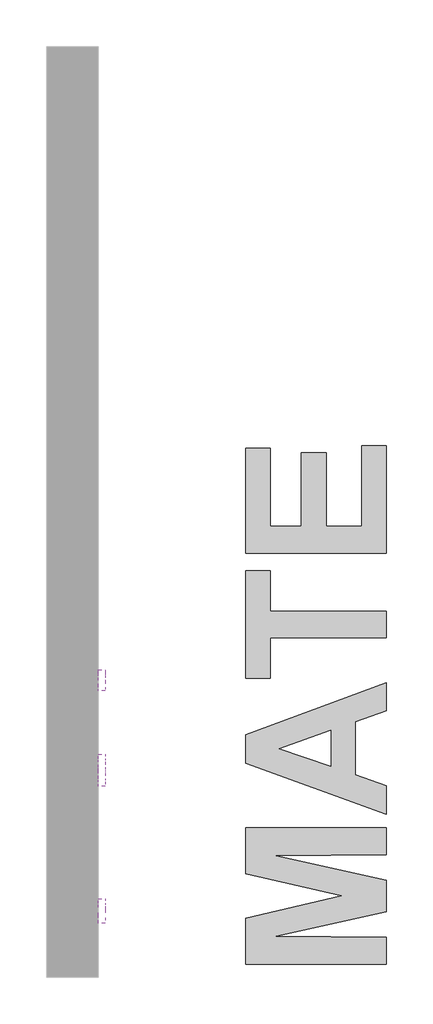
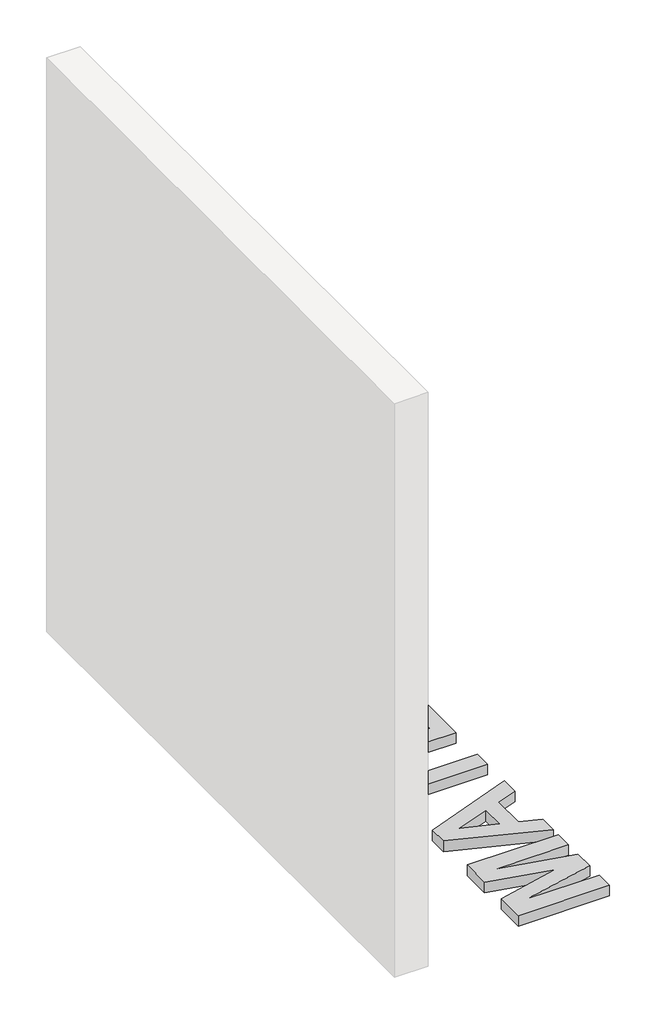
# One storey, part 5 of 14: 4 proxies.
"""IFC4 building model written with IfcOpenShell, lengths in millimetres."""

import ifcopenshell
import ifcopenshell.guid

model = None  # the IFC model being written
_history = None  # IfcOwnerHistory: only IFC2X3 demands one
_inside = {}  # id of a spatial element -> (the spatial element, [elements in it])
_under = {}  # id of a project, library or spatial element -> (it, [spatial elements below it])
_declared = {}  # id of a project -> (the project, [libraries it declares])
_typed = {}  # id of a type object -> (the type object, [elements of that type])
_made_of = {}  # id of a material, layer set ... -> (it, [elements and type objects made of it])


def new_model(schema):
    """Start an empty IFC model of exactly this schema.

    Asked for "IFC4X3", IfcOpenShell would pick the latest addendum, in which some entities
    have other attributes; the version numbers below select the first issue.
    IFC2X3 requires an IfcOwnerHistory on every rooted entity: one is made here for all.
    """
    global model, _history
    if schema == "IFC4X3":
        model = ifcopenshell.file(schema_version=(4, 3, 0, 0))
    else:
        model = ifcopenshell.file(schema=schema)
    _inside.clear()
    _under.clear()
    _declared.clear()
    _typed.clear()
    _made_of.clear()
    _history = None
    if model.schema == "IFC2X3":
        org = make("IfcOrganization", Name="unknown")
        user = make(
            "IfcPersonAndOrganization",
            ThePerson=make("IfcPerson", FamilyName="unknown"),
            TheOrganization=org,
        )
        app = make(
            "IfcApplication",
            ApplicationDeveloper=org,
            Version="unknown",
            ApplicationFullName="unknown",
            ApplicationIdentifier="unknown",
        )
        _history = make(
            "IfcOwnerHistory",
            OwningUser=user,
            OwningApplication=app,
            ChangeAction="ADDED",
            CreationDate=0,
        )
    return model


def make(cls, **values):
    """One entity of the class cls with the attributes given. An attribute that is None is left unset."""
    return model.create_entity(
        cls, **{name: value for name, value in values.items() if value is not None}
    )


def rooted(cls, **values):
    """An entity with a GlobalId (a new one), such as an element, a storey or a relation."""
    return make(cls, GlobalId=ifcopenshell.guid.new(), OwnerHistory=_history, **values)


def si_unit(unit_type, name, prefix=None):
    """IfcSIUnit, for example si_unit("LENGTHUNIT", "METRE", prefix="MILLI")."""
    return make("IfcSIUnit", UnitType=unit_type, Prefix=prefix, Name=name)


def assignment(units):
    """IfcUnitAssignment: the units of a project."""
    return None if units is None else make("IfcUnitAssignment", Units=units)


def point(xyz):
    """IfcCartesianPoint."""
    return None if xyz is None else make("IfcCartesianPoint", Coordinates=xyz)


def direction(xyz):
    """IfcDirection."""
    return None if xyz is None else make("IfcDirection", DirectionRatios=xyz)


def frame(location, z_axis=None, x_axis=None):
    """IfcAxis2Placement3D, a coordinate frame: its origin and axes. An axis left out is left unset."""
    return make(
        "IfcAxis2Placement3D",
        Location=point(location),
        Axis=direction(z_axis),
        RefDirection=direction(x_axis),
    )


def origin():
    """The frame at (0, 0, 0) with its axes left unset."""
    return frame((0.0, 0.0, 0.0))


def origin_with_axes():
    """The frame at (0, 0, 0) with the z axis (0, 0, 1) and the x axis (1, 0, 0) written out."""
    return frame((0.0, 0.0, 0.0), z_axis=(0.0, 0.0, 1.0), x_axis=(1.0, 0.0, 0.0))


def place(relative_to, where):
    """IfcLocalPlacement: puts the frame where relative to a parent placement (None: the world)."""
    return make(
        "IfcLocalPlacement", PlacementRelTo=relative_to, RelativePlacement=where
    )


def context(
    kind, dimensions, precision=None, world=None, true_north=None, identifier=None
):
    """IfcGeometricRepresentationContext, for example the 3D "Model" context."""
    return make(
        "IfcGeometricRepresentationContext",
        ContextIdentifier=identifier,
        ContextType=kind,
        CoordinateSpaceDimension=dimensions,
        Precision=precision,
        WorldCoordinateSystem=world,
        TrueNorth=true_north,
    )


def project(units=None, contexts=None):
    """IfcProject with its units and contexts."""
    return rooted(
        "IfcProject",
        Name="project",
        RepresentationContexts=contexts,
        UnitsInContext=assignment(units),
    )


def spatial(cls, under=None, at=None, **own):
    """A site, building, storey or space (cls), placed at a placement, below another one or the project."""
    s = rooted(cls, ObjectPlacement=at, **own)
    if under is not None:
        _under.setdefault(under.id(), (under, []))[1].append(s)
    return s


def polyline(points):
    """IfcPolyline through the points."""
    return make("IfcPolyline", Points=[point(p) for p in points])


def outline(outer, holes=None, kind="AREA"):
    """IfcArbitraryClosedProfileDef: a profile drawn as a closed curve; with holes, ...WithVoids."""
    if holes is None:
        return make("IfcArbitraryClosedProfileDef", ProfileType=kind, OuterCurve=outer)
    return make(
        "IfcArbitraryProfileDefWithVoids",
        ProfileType=kind,
        OuterCurve=outer,
        InnerCurves=holes,
    )


def extrude(swept, where, along, depth):
    """IfcExtrudedAreaSolid: the profile swept, set in the frame where, extruded along a direction by depth."""
    return make(
        "IfcExtrudedAreaSolid",
        SweptArea=swept,
        Position=where,
        ExtrudedDirection=direction(along),
        Depth=depth,
    )


def shape(context_of_items, identifier, shape_type, items):
    """IfcShapeRepresentation: the items that make up one representation, for example the "Body"."""
    return make(
        "IfcShapeRepresentation",
        ContextOfItems=context_of_items,
        RepresentationIdentifier=identifier,
        RepresentationType=shape_type,
        Items=items,
    )


def made_of(thing, what):
    """Note that an element or type object is made of a material, layer set ...; save() writes the relation."""
    if what is not None:
        _made_of.setdefault(what.id(), (what, []))[1].append(thing)
    return thing


def element(
    cls,
    number,
    at=None,
    inside=None,
    cuts=None,
    type_object=None,
    material=None,
    context=None,
    identifier="Body",
    shape_type=None,
    held_by="IfcProductDefinitionShape",
    body=None,
    shapes=None,
    **own,
):
    """One element of the class cls, such as IfcWall. Its Tag is "e" and its number.

    at: its placement. inside: the storey or other place that contains it. cuts: it is an
    opening in that element (IfcRelVoidsElement). A single representation is given by context,
    identifier, shape_type and body (its items); several are given by shapes. held_by: the class
    of the entity that holds the representations. save() writes the other relations.
    """
    e = rooted(cls, Tag="e%d" % number, ObjectPlacement=at, **own)
    if body is not None:
        shapes = [shape(context, identifier, shape_type, body)]
    if shapes is not None:
        e.Representation = make(held_by, Representations=shapes)
    if inside is not None:
        _inside.setdefault(inside.id(), (inside, []))[1].append(e)
    if cuts is not None:
        rooted(
            "IfcRelVoidsElement", RelatingBuildingElement=cuts, RelatedOpeningElement=e
        )
    if type_object is not None:
        _typed.setdefault(type_object.id(), (type_object, []))[1].append(e)
    return made_of(e, material)


def aggregate(whole, parts):
    """IfcRelAggregates: a whole, such as a stair, and the parts it consists of."""
    return rooted("IfcRelAggregates", RelatingObject=whole, RelatedObjects=parts)


def save(model, path):
    """Write the relations noted so far, then the file.

    IfcRelAggregates (storeys below a building ...), IfcRelContainedInSpatialStructure (elements
    in a storey), IfcRelDefinesByType, IfcRelAssociatesMaterial and IfcRelDeclares: one each for
    every whole, place, type object, material and project.
    """
    for whole, parts in _under.values():
        aggregate(whole, parts)
    for where, things in _inside.values():
        rooted(
            "IfcRelContainedInSpatialStructure",
            RelatedElements=things,
            RelatingStructure=where,
        )
    for kind, things in _typed.values():
        rooted("IfcRelDefinesByType", RelatedObjects=things, RelatingType=kind)
    for what, things in _made_of.values():
        rooted("IfcRelAssociatesMaterial", RelatedObjects=things, RelatingMaterial=what)
    for by, libraries in _declared.values():
        rooted("IfcRelDeclares", RelatingContext=by, RelatedDefinitions=libraries)
    model.write(path)


model = new_model("IFC4")

# Units and contexts
model_context = context("Model", 3, world=origin())
ifc_project = project(units=[si_unit("LENGTHUNIT", "METRE", prefix="MILLI")], contexts=[model_context])

# Site, building, storey
site = spatial("IfcSite", under=ifc_project)
building = spatial("IfcBuilding", under=site)
storey = spatial("IfcBuildingStorey", under=building, Name="PORTOBELLO - SHOWROOM", Elevation=0.0)

# Proxies
placement = place(None, origin())
element("IfcBuildingElementProxy", 1, Name="10mm Arial", ObjectType="10mm Arial", at=placement, inside=storey, context=model_context, shape_type="SweptSolid", body=[
    extrude(outline(polyline([(5525.014652, 2518.4745677), (5525.014652, 2618.9308778), (5563.3479558, 2618.9308778), (5582.1222003, 2615.9755591), (5593.2077111, 2606.8888738), (5597.2176249, 2594.0375295), (5593.8453733, 2582.3020938), (5583.655042, 2573.4116123), (5596.0281398, 2564.0428841), (5600.3568846, 2548.4201621), (5597.4015659, 2534.9188928), (5590.0807142, 2525.30491), (5579.1546189, 2520.203613), (5563.0536503, 2518.4745677), (5525.014652, 2518.4745677)]), holes=[polyline([(5537.5716907, 2578.1205018), (5560.5030018, 2578.1205018), (5573.8939064, 2579.1996223), (5581.9505221, 2583.8471982), (5584.6605861, 2592.0264412), (5582.1344631, 2600.217947), (5574.8994505, 2605.0617266), (5558.7616936, 2606.373839), (5537.5716907, 2606.373839), (5537.5716907, 2578.1205018)]), polyline([(5537.5716907, 2531.0316064), (5563.3234304, 2531.0316064), (5572.6431076, 2531.5221158), (5580.528045, 2534.2567053), (5585.7519694, 2539.8362488), (5587.7998458, 2548.2975347), (5585.3963501, 2558.0586703), (5577.6095145, 2563.8834686), (5562.0971571, 2565.563463), (5537.5716907, 2565.563463), (5537.5716907, 2531.0316064)])]), frame((-16677.6869751, 0.0, 0.0), z_axis=(1.0, 0.0, 0.0), x_axis=(0.0, 1.0, 0.0)), (0.0, 0.0, 1.0), 20.0),
    extrude(outline(polyline([(-16657.6869751, 5628.6102218), (-16657.6869751, 5616.053183), (-16677.6869751, 5616.053183), (-16677.6869751, 5628.6102218), (-16657.6869751, 5628.6102218)])), frame((0.0, 0.0, 2606.373839), z_axis=(0.0, 0.0, 1.0), x_axis=(1.0, 0.0, 0.0)), (0.0, 0.0, 1.0), 12.5570388),
    extrude(outline(polyline([(-16657.6869751, 5628.6102218), (-16657.6869751, 5616.053183), (-16677.6869751, 5616.053183), (-16677.6869751, 5628.6102218), (-16657.6869751, 5628.6102218)])), frame((0.0, 0.0, 2518.4745677), z_axis=(0.0, 0.0, 1.0), x_axis=(1.0, 0.0, 0.0)), (0.0, 0.0, 1.0), 73.7726028),
    extrude(outline(polyline([(5694.5346753, 2527.8923467), (5682.3577813, 2519.3820099), (5668.905563, 2516.9049378), (5658.4117291, 2518.3948599), (5650.6708788, 2522.8646261), (5645.8976099, 2529.6520489), (5644.3065203, 2538.0949407), (5646.710016, 2548.0277546), (5653.0253235, 2555.2382417), (5661.8177032, 2559.3585201), (5672.6824848, 2561.246981), (5694.4610989, 2565.563463), (5694.5346753, 2568.3593662), (5691.0765846, 2577.6299925), (5677.1951706, 2581.2597615), (5664.4909791, 2578.8440031), (5658.4331889, 2570.2723526), (5645.8761501, 2571.8419824), (5651.3085409, 2584.1047156), (5662.2468989, 2591.2906772), (5678.8138514, 2593.8168003), (5694.0319033, 2591.5849828), (5702.6280792, 2585.9809138), (5706.4785774, 2577.4583142), (5707.0917141, 2566.4709053), (5707.0917141, 2550.8481832), (5707.7293762, 2529.0327809), (5710.2309738, 2518.4745677), (5697.673935, 2518.4745677), (5694.5346753, 2527.8923467)]), holes=[polyline([(5694.5346753, 2553.0064243), (5674.2766401, 2549.1559261), (5663.4731722, 2547.1203124), (5658.5803417, 2543.8093744), (5656.863559, 2538.9778575), (5660.6036926, 2532.1843033), (5671.5788388, 2529.4619766), (5684.2830304, 2532.4663462), (5692.4745362, 2539.738147), (5694.4610989, 2549.4502317), (5694.5346753, 2553.0064243)])]), frame((-16677.6869751, 0.0, 0.0), z_axis=(1.0, 0.0, 0.0), x_axis=(0.0, 1.0, 0.0)), (0.0, 0.0, 1.0), 20.0),
    extrude(outline(polyline([(5724.3576424, 2518.4745677), (5724.3576424, 2592.2471704), (5736.9146812, 2592.2471704), (5736.9146812, 2581.9464746), (5746.5164012, 2590.8492188), (5759.625263, 2593.8168003), (5771.483326, 2591.4255673), (5779.5767299, 2585.1470479), (5783.341389, 2575.9132098), (5784.0035766, 2563.773104), (5784.0035766, 2518.4745677), (5771.4465378, 2518.4745677), (5771.4465378, 2562.0808468), (5769.9995353, 2573.1908831), (5764.8859755, 2579.0647323), (5756.2652741, 2581.2597615), (5742.6413776, 2576.3301428), (5738.3463553, 2569.1871007), (5736.9146812, 2557.6172119), (5736.9146812, 2518.4745677), (5724.3576424, 2518.4745677)])), frame((-16677.6869751, 0.0, 0.0), z_axis=(1.0, 0.0, 0.0), x_axis=(0.0, 1.0, 0.0)), (0.0, 0.0, 1.0), 20.0),
    extrude(outline(polyline([(5848.3584002, 2545.158275), (5860.915439, 2543.5886452), (5857.4144287, 2532.420361), (5850.8354723, 2523.9805349), (5841.797838, 2518.6738371), (5830.9207937, 2516.9049378), (5817.5636116, 2519.3728129), (5807.1188286, 2526.776438), (5800.377391, 2538.7908508), (5798.1302452, 2555.0910889), (5801.9684807, 2575.949998), (5813.6671281, 2589.3531654), (5830.7491154, 2593.8168003), (5841.3594453, 2592.2839586), (5849.842191, 2587.6854337), (5855.9275723, 2580.2664801), (5859.3458092, 2570.2723526), (5846.7887704, 2568.7027227), (5840.9639721, 2578.1082391), (5830.8472173, 2581.2597615), (5822.7323536, 2579.7085258), (5816.291353, 2575.0548185), (5812.0883012, 2567.0472538), (5810.6872839, 2555.4344454), (5812.0576444, 2543.6652873), (5816.1687257, 2535.6301314), (5822.4932303, 2531.0040153), (5830.5038607, 2529.4619766), (5842.3373983, 2533.3124748), (5848.3584002, 2545.158275)])), frame((-16677.6869751, 0.0, 0.0), z_axis=(1.0, 0.0, 0.0), x_axis=(0.0, 1.0, 0.0)), (0.0, 0.0, 1.0), 20.0),
    extrude(outline(polyline([(5868.7635882, 2555.360869), (5871.4797836, 2573.1479635), (5879.6283698, 2585.64982), (5889.6960738, 2591.7750552), (5901.7503405, 2593.8168003), (5914.9419757, 2591.3305311), (5925.4787292, 2583.8717237), (5932.3857136, 2572.0289891), (5934.6880418, 2556.3909386), (5930.6168144, 2534.0482388), (5918.7587514, 2521.4053609), (5901.7503405, 2516.9049378), (5888.3992897, 2519.3820099), (5877.874799, 2526.8132262), (5871.0413909, 2538.9042811), (5868.7635882, 2555.360869)]), holes=[polyline([(5881.320627, 2555.3853945), (5882.7737609, 2544.0209065), (5887.1331625, 2535.924437), (5893.6937248, 2531.0775917), (5901.7503405, 2529.4619766), (5909.770168, 2531.0867887), (5916.3184675, 2535.9612252), (5920.6778691, 2544.1649937), (5922.131003, 2555.777802), (5920.6686721, 2566.8111961), (5916.2816793, 2574.7973011), (5909.7241827, 2579.6441464), (5901.7503405, 2581.2597615), (5893.6937248, 2579.6502778), (5887.1331625, 2574.8218266), (5882.7737609, 2566.7437511), (5881.320627, 2555.3853945)])]), frame((-16677.6869751, 0.0, 0.0), z_axis=(1.0, 0.0, 0.0), x_axis=(0.0, 1.0, 0.0)), (0.0, 0.0, 1.0), 20.0),
    extrude(outline(polyline([(5989.6250864, 2518.4745677), (5989.6250864, 2618.9308778), (6011.1584458, 2618.9308778), (6031.7598376, 2548.1258565), (6035.9291669, 2533.3370003), (6040.4173272, 2549.3521298), (6060.6263115, 2618.9308778), (6082.2332473, 2618.9308778), (6082.2332473, 2518.4745677), (6069.6762085, 2518.4745677), (6069.6762085, 2606.373839), (6044.4395037, 2518.4745677), (6027.4433555, 2518.4745677), (6002.1821252, 2606.373839), (6002.1821252, 2518.4745677), (5989.6250864, 2518.4745677)])), frame((-16677.6869751, 0.0, 0.0), z_axis=(1.0, 0.0, 0.0), x_axis=(0.0, 1.0, 0.0)), (0.0, 0.0, 1.0), 20.0),
    extrude(outline(polyline([(-16657.6869751, 6115.1954741), (-16657.6869751, 6102.6384353), (-16677.6869751, 6102.6384353), (-16677.6869751, 6115.1954741), (-16657.6869751, 6115.1954741)])), frame((0.0, 0.0, 2606.373839), z_axis=(0.0, 0.0, 1.0), x_axis=(1.0, 0.0, 0.0)), (0.0, 0.0, 1.0), 12.5570388),
    extrude(outline(polyline([(-16657.6869751, 6115.1954741), (-16657.6869751, 6102.6384353), (-16677.6869751, 6102.6384353), (-16677.6869751, 6115.1954741), (-16657.6869751, 6115.1954741)])), frame((0.0, 0.0, 2518.4745677), z_axis=(0.0, 0.0, 1.0), x_axis=(1.0, 0.0, 0.0)), (0.0, 0.0, 1.0), 73.7726028),
    extrude(outline(polyline([(6126.182883, 2518.4745677), (6153.0137432, 2555.5815982), (6127.7525129, 2592.2471704), (6142.8111492, 2592.2471704), (6155.000306, 2574.5643092), (6160.7147396, 2566.2501761), (6165.6688838, 2573.0682557), (6179.5502978, 2592.2471704), (6194.657985, 2592.2471704), (6168.1214305, 2555.5570728), (6193.6769664, 2518.4745677), (6178.5938046, 2518.4745677), (6163.1918117, 2540.792742), (6160.3959086, 2544.8884949), (6141.2905703, 2518.4745677), (6126.182883, 2518.4745677)])), frame((-16677.6869751, 0.0, 0.0), z_axis=(1.0, 0.0, 0.0), x_axis=(0.0, 1.0, 0.0)), (0.0, 0.0, 1.0), 20.0),
])
element("IfcBuildingElementProxy", 2, Name="10mm Arial", ObjectType="10mm Arial", at=placement, inside=storey, context=model_context, shape_type="SweptSolid", body=[
    extrude(outline(polyline([(5567.3946578, 2393.4745677), (5554.837619, 2393.4745677), (5554.837619, 2471.7598562), (5542.9427679, 2463.2863076), (5529.7235415, 2456.9464746), (5529.7235415, 2468.8168003), (5548.129904, 2480.5644987), (5559.3012539, 2493.9308778), (5567.3946578, 2493.9308778), (5567.3946578, 2393.4745677)])), frame((-16677.6869751, 0.0, 0.0), z_axis=(1.0, 0.0, 0.0), x_axis=(0.0, 1.0, 0.0)), (0.0, 0.0, 1.0), 20.0),
    extrude(outline(polyline([(5638.0280009, 2393.4745677), (5638.0280009, 2417.0190154), (5592.5087353, 2417.0190154), (5592.5087353, 2429.5760541), (5641.1672606, 2492.361248), (5650.5850396, 2492.361248), (5650.5850396, 2429.5760541), (5663.1420784, 2429.5760541), (5663.1420784, 2417.0190154), (5650.5850396, 2417.0190154), (5650.5850396, 2393.4745677), (5638.0280009, 2393.4745677)]), holes=[polyline([(5638.0280009, 2429.5760541), (5638.0280009, 2468.3753419), (5607.9597791, 2429.5760541), (5638.0280009, 2429.5760541)])]), frame((-16677.6869751, 0.0, 0.0), z_axis=(1.0, 0.0, 0.0), x_axis=(0.0, 1.0, 0.0)), (0.0, 0.0, 1.0), 20.0),
    extrude(outline(polyline([(5680.4080067, 2393.4745677), (5680.4080067, 2406.0316064), (5692.9650455, 2406.0316064), (5692.9650455, 2393.4745677), (5690.7087026, 2380.635486), (5683.5472664, 2373.0693797), (5680.4080067, 2377.7782692), (5685.0187944, 2383.1983973), (5686.6620006, 2393.4745677), (5680.4080067, 2393.4745677)])), frame((-16677.6869751, 0.0, 0.0), z_axis=(1.0, 0.0, 0.0), x_axis=(0.0, 1.0, 0.0)), (0.0, 0.0, 1.0), 20.0),
    extrude(outline(polyline([(5713.3702335, 2420.158275), (5725.9272723, 2421.7279049), (5732.2548426, 2408.7907214), (5745.3759671, 2404.4619766), (5754.3768132, 2405.9672271), (5761.1213165, 2410.4829786), (5765.3335653, 2417.4880649), (5766.7376482, 2426.4613199), (5761.4769357, 2441.3728034), (5754.8703882, 2445.4746877), (5745.5721708, 2446.8419824), (5734.5479737, 2444.6592159), (5727.4969021, 2438.9938332), (5714.9398633, 2440.563463), (5725.9272723, 2492.361248), (5774.5857975, 2492.361248), (5774.5857975, 2479.8042092), (5736.0808153, 2479.8042092), (5730.6852127, 2452.1394832), (5739.655402, 2457.5841367), (5749.054787, 2459.3990212), (5760.7902227, 2457.1488097), (5770.5390955, 2450.3981751), (5777.1057891, 2440.1097419), (5779.294687, 2427.2461348), (5777.3265183, 2414.6890961), (5771.4220123, 2403.9469418), (5760.1157723, 2394.9154388), (5745.3269161, 2391.9049378), (5732.9936722, 2393.839384), (5723.1681573, 2399.6427224), (5716.4328511, 2408.6405029), (5713.3702335, 2420.158275)])), frame((-16677.6869751, 0.0, 0.0), z_axis=(1.0, 0.0, 0.0), x_axis=(0.0, 1.0, 0.0)), (0.0, 0.0, 1.0), 20.0),
    extrude(outline(polyline([(5785.5732064, 2393.4745677), (5812.4040666, 2430.5815982), (5787.1428362, 2467.2471704), (5802.2014726, 2467.2471704), (5814.3906294, 2449.5643092), (5820.105063, 2441.2501761), (5825.0592072, 2448.0682557), (5838.9406212, 2467.2471704), (5854.0483084, 2467.2471704), (5827.5117539, 2430.5570728), (5853.0672898, 2393.4745677), (5837.984128, 2393.4745677), (5822.5821351, 2415.792742), (5819.786232, 2419.8884949), (5800.6808937, 2393.4745677), (5785.5732064, 2393.4745677)])), frame((-16677.6869751, 0.0, 0.0), z_axis=(1.0, 0.0, 0.0), x_axis=(0.0, 1.0, 0.0)), (0.0, 0.0, 1.0), 20.0),
    extrude(outline(polyline([(5908.0043344, 2393.4745677), (5895.4472956, 2393.4745677), (5895.4472956, 2471.7598562), (5883.5524445, 2463.2863076), (5870.3332181, 2456.9464746), (5870.3332181, 2468.8168003), (5888.7395806, 2480.5644987), (5899.9109305, 2493.9308778), (5908.0043344, 2493.9308778), (5908.0043344, 2393.4745677)])), frame((-16677.6869751, 0.0, 0.0), z_axis=(1.0, 0.0, 0.0), x_axis=(0.0, 1.0, 0.0)), (0.0, 0.0, 1.0), 20.0),
    extrude(outline(polyline([(5978.6376775, 2393.4745677), (5978.6376775, 2417.0190154), (5933.1184119, 2417.0190154), (5933.1184119, 2429.5760541), (5981.7769372, 2492.361248), (5991.1947162, 2492.361248), (5991.1947162, 2429.5760541), (6003.751755, 2429.5760541), (6003.751755, 2417.0190154), (5991.1947162, 2417.0190154), (5991.1947162, 2393.4745677), (5978.6376775, 2393.4745677)]), holes=[polyline([(5978.6376775, 2429.5760541), (5978.6376775, 2468.3753419), (5948.5694557, 2429.5760541), (5978.6376775, 2429.5760541)])]), frame((-16677.6869751, 0.0, 0.0), z_axis=(1.0, 0.0, 0.0), x_axis=(0.0, 1.0, 0.0)), (0.0, 0.0, 1.0), 20.0),
    extrude(outline(polyline([(6021.0176833, 2393.4745677), (6021.0176833, 2406.0316064), (6033.5747221, 2406.0316064), (6033.5747221, 2393.4745677), (6031.3183792, 2380.635486), (6024.156943, 2373.0693797), (6021.0176833, 2377.7782692), (6025.628471, 2383.1983973), (6027.2716772, 2393.4745677), (6021.0176833, 2393.4745677)])), frame((-16677.6869751, 0.0, 0.0), z_axis=(1.0, 0.0, 0.0), x_axis=(0.0, 1.0, 0.0)), (0.0, 0.0, 1.0), 20.0),
    extrude(outline(polyline([(6053.9799101, 2420.158275), (6066.5369489, 2421.7279049), (6072.8645192, 2408.7907214), (6085.9856437, 2404.4619766), (6094.9864898, 2405.9672271), (6101.7309931, 2410.4829786), (6105.9432419, 2417.4880649), (6107.3473249, 2426.4613199), (6102.0866123, 2441.3728034), (6095.4800648, 2445.4746877), (6086.1818474, 2446.8419824), (6075.1576503, 2444.6592159), (6068.1065787, 2438.9938332), (6055.5495399, 2440.563463), (6066.5369489, 2492.361248), (6115.1954741, 2492.361248), (6115.1954741, 2479.8042092), (6076.6904919, 2479.8042092), (6071.2948893, 2452.1394832), (6080.2650786, 2457.5841367), (6089.6644636, 2459.3990212), (6101.3998993, 2457.1488097), (6111.1487721, 2450.3981751), (6117.7154657, 2440.1097419), (6119.9043636, 2427.2461348), (6117.9361949, 2414.6890961), (6112.0316889, 2403.9469418), (6100.7254489, 2394.9154388), (6085.9365927, 2391.9049378), (6073.6033488, 2393.839384), (6063.7778339, 2399.6427224), (6057.0425277, 2408.6405029), (6053.9799101, 2420.158275)])), frame((-16677.6869751, 0.0, 0.0), z_axis=(1.0, 0.0, 0.0), x_axis=(0.0, 1.0, 0.0)), (0.0, 0.0, 1.0), 20.0),
])
element("IfcBuildingElementProxy", 3, Name="10mm Arial Narrow", ObjectType="10mm Arial Narrow", at=placement, inside=storey, context=model_context, shape_type="SweptSolid", body=[
    extrude(outline(polyline([(6266.9202468, 2518.4745677), (6266.9202468, 2615.7916181), (6297.1601468, 2615.7916181), (6312.9054962, 2613.9767336), (6323.991007, 2604.8164719), (6328.1358108, 2588.3721467), (6326.4098311, 2576.7041561), (6321.231892, 2567.402873), (6311.8171786, 2561.314426), (6297.380876, 2559.2849437), (6276.3380259, 2559.2849437), (6276.3380259, 2518.4745677), (6266.9202468, 2518.4745677)]), holes=[polyline([(6276.3380259, 2570.2723526), (6298.5335729, 2570.2723526), (6313.8619894, 2574.6501483), (6318.7180317, 2587.857112), (6316.3267988, 2597.6795612), (6310.5510514, 2603.2836303), (6298.3128437, 2604.8042092), (6276.3380259, 2604.8042092), (6276.3380259, 2570.2723526)])]), frame((-16677.6869751, 0.0, 0.0), z_axis=(1.0, 0.0, 0.0), x_axis=(0.0, 1.0, 0.0)), (0.0, 0.0, 1.0), 20.0),
    extrude(outline(polyline([(6335.98396, 2553.7912392), (6337.8724209, 2569.8216971), (6343.5378037, 2581.3701261), (6352.0971914, 2588.350687), (6362.6676674, 2590.6775406), (6373.1155161, 2588.350687), (6381.6994293, 2581.3701261), (6387.4383884, 2570.0056381), (6389.3513748, 2554.5270032), (6387.4721109, 2537.9447223), (6381.8343194, 2526.2123523), (6373.2841287, 2519.2317914), (6362.6676674, 2516.9049378), (6352.1738335, 2519.2379228), (6343.5991173, 2526.2368778), (6337.8877494, 2537.7914381), (6335.98396, 2553.7912392)]), holes=[polyline([(6345.4017391, 2553.8157647), (6346.6617349, 2541.6879216), (6350.4417224, 2533.1162711), (6356.0856454, 2528.0211054), (6362.9374475, 2526.3227169), (6369.4305648, 2528.0364339), (6374.9304006, 2533.1775847), (6378.6827969, 2541.7645636), (6379.9335957, 2553.8157647), (6378.6735999, 2565.9068196), (6374.8936124, 2574.4662073), (6369.2496894, 2579.561373), (6362.3978873, 2581.2597615), (6355.8587848, 2579.5521759), (6350.368146, 2574.4294191), (6346.6433408, 2565.8608343), (6345.4017391, 2553.8157647)])]), frame((-16677.6869751, 0.0, 0.0), z_axis=(1.0, 0.0, 0.0), x_axis=(0.0, 1.0, 0.0)), (0.0, 0.0, 1.0), 20.0),
    extrude(outline(polyline([(6458.415088, 2526.3227169), (6459.9847179, 2516.9049378), (6452.8723326, 2516.9049378), (6444.8770306, 2518.9528143), (6440.7077013, 2524.5568833), (6439.5795299, 2538.7080774), (6439.5795299, 2579.6901317), (6431.7313806, 2579.6901317), (6431.7313806, 2582.8293914), (6430.1617508, 2578.1205018), (6422.8531618, 2579.6901317), (6416.9793126, 2577.4460515), (6413.239179, 2571.1797948), (6411.3261926, 2556.2928368), (6411.3261926, 2518.4745677), (6401.9084136, 2518.4745677), (6401.9084136, 2589.1079107), (6411.3261926, 2589.1079107), (6411.3261926, 2579.7391826), (6417.3594574, 2588.5192995), (6423.5398749, 2590.6775406), (6431.7313806, 2589.1079107), (6439.5795299, 2589.1079107), (6439.5795299, 2604.8042092), (6448.997309, 2612.6523584), (6448.997309, 2589.1079107), (6458.415088, 2589.1079107), (6458.415088, 2579.6901317), (6448.997309, 2579.6901317), (6448.997309, 2536.5498364), (6449.8311748, 2528.8243145), (6454.2948097, 2526.3227169), (6458.415088, 2526.3227169)])), frame((-16677.6869751, 0.0, 0.0), z_axis=(1.0, 0.0, 0.0), x_axis=(0.0, 1.0, 0.0)), (0.0, 0.0, 1.0), 20.0),
    extrude(outline(polyline([(6464.6936074, 2553.7912392), (6466.5820683, 2569.8216971), (6472.247451, 2581.3701261), (6480.8068388, 2588.350687), (6491.3773148, 2590.6775406), (6501.8251635, 2588.350687), (6510.4090767, 2581.3701261), (6516.1480358, 2570.0056381), (6518.0610222, 2554.5270032), (6516.1817583, 2537.9447223), (6510.5439667, 2526.2123523), (6501.993776, 2519.2317914), (6491.3773148, 2516.9049378), (6480.8834809, 2519.2379228), (6472.3087647, 2526.2368778), (6466.5973967, 2537.7914381), (6464.6936074, 2553.7912392)]), holes=[polyline([(6474.1113865, 2553.8157647), (6475.3713823, 2541.6879216), (6479.1513698, 2533.1162711), (6484.7952928, 2528.0211054), (6491.6470949, 2526.3227169), (6498.1402121, 2528.0364339), (6503.640048, 2533.1775847), (6507.3924443, 2541.7645636), (6508.6432431, 2553.8157647), (6507.3832473, 2565.9068196), (6503.6032598, 2574.4662073), (6497.9593368, 2579.561373), (6491.1075347, 2581.2597615), (6484.5684322, 2579.5521759), (6479.0777934, 2574.4294191), (6475.3529882, 2565.8608343), (6474.1113865, 2553.8157647)])]), frame((-16677.6869751, 0.0, 0.0), z_axis=(1.0, 0.0, 0.0), x_axis=(0.0, 1.0, 0.0)), (0.0, 0.0, 1.0), 20.0),
    extrude(outline(polyline([(6540.03584, 2518.4745677), (6530.6180609, 2518.4745677), (6530.6180609, 2615.7916181), (6540.03584, 2615.7916181), (6540.03584, 2581.5785926), (6547.1850135, 2588.4211977), (6556.075495, 2590.6775406), (6568.5221692, 2586.6185759), (6577.4862271, 2574.3190545), (6580.846216, 2554.3307995), (6578.9792149, 2538.4321659), (6573.3782115, 2526.641548), (6565.2878733, 2519.3390904), (6555.9528677, 2516.9049378), (6546.9274961, 2519.4310609), (6540.03584, 2526.9358536), (6540.03584, 2518.4745677)]), holes=[polyline([(6540.03584, 2554.3307995), (6542.0469283, 2537.6657451), (6547.7368365, 2529.2289847), (6555.9038167, 2526.3227169), (6561.6458416, 2528.0517623), (6566.7072847, 2533.2388984), (6571.4284369, 2553.938392), (6566.8789629, 2574.6501483), (6561.8113885, 2579.6073582), (6555.707613, 2581.2597615), (6549.9318657, 2579.5307161), (6544.818306, 2574.34358), (6540.03584, 2554.3307995)])]), frame((-16677.6869751, 0.0, 0.0), z_axis=(1.0, 0.0, 0.0), x_axis=(0.0, 1.0, 0.0)), (0.0, 0.0, 1.0), 20.0),
    extrude(outline(polyline([(6631.0743711, 2540.4493855), (6640.4921502, 2538.8797557), (6631.2951003, 2522.4476932), (6614.8139869, 2516.9049378), (6603.6119802, 2519.2379228), (6594.7766809, 2526.2368778), (6589.0377218, 2537.6442853), (6587.1247354, 2553.202628), (6589.0469188, 2569.3066623), (6594.8134691, 2581.0758205), (6603.5230753, 2588.2771106), (6614.2744267, 2590.6775406), (6624.5965823, 2588.359884), (6633.0486711, 2581.4069143), (6638.6864627, 2570.0638861), (6640.5657266, 2554.5760541), (6640.4921502, 2551.4367944), (6596.5425145, 2551.4367944), (6602.3427873, 2532.6502872), (6608.0725493, 2527.9046095), (6614.9366142, 2526.3227169), (6624.7713262, 2529.854384), (6631.0743711, 2540.4493855)]), holes=[polyline([(6597.1801766, 2560.8545735), (6631.0743711, 2560.8545735), (6626.9540928, 2574.6378856), (6621.3254982, 2579.6042925), (6614.3480031, 2581.2597615), (6602.5512537, 2575.7415316), (6597.1801766, 2560.8545735)])]), frame((-16677.6869751, 0.0, 0.0), z_axis=(1.0, 0.0, 0.0), x_axis=(0.0, 1.0, 0.0)), (0.0, 0.0, 1.0), 20.0),
    extrude(outline(polyline([(-16657.6869751, 6662.466968), (-16657.6869751, 6653.0491889), (-16677.6869751, 6653.0491889), (-16677.6869751, 6662.466968), (-16657.6869751, 6662.466968)])), frame((0.0, 0.0, 2518.4745677), z_axis=(0.0, 0.0, 1.0), x_axis=(1.0, 0.0, 0.0)), (0.0, 0.0, 1.0), 97.3170505),
    extrude(outline(polyline([(-16657.6869751, 6687.5810456), (-16657.6869751, 6678.1632665), (-16677.6869751, 6678.1632665), (-16677.6869751, 6687.5810456), (-16657.6869751, 6687.5810456)])), frame((0.0, 0.0, 2518.4745677), z_axis=(0.0, 0.0, 1.0), x_axis=(1.0, 0.0, 0.0)), (0.0, 0.0, 1.0), 97.3170505),
    extrude(outline(polyline([(6698.5684545, 2553.7912392), (6700.4569154, 2569.8216971), (6706.1222981, 2581.3701261), (6714.6816859, 2588.350687), (6725.2521619, 2590.6775406), (6735.7000105, 2588.350687), (6744.2839237, 2581.3701261), (6750.0228829, 2570.0056381), (6751.9358692, 2554.5270032), (6750.0566054, 2537.9447223), (6744.4188138, 2526.2123523), (6735.8686231, 2519.2317914), (6725.2521619, 2516.9049378), (6714.758328, 2519.2379228), (6706.1836118, 2526.2368778), (6700.4722438, 2537.7914381), (6698.5684545, 2553.7912392)]), holes=[polyline([(6707.9862336, 2553.8157647), (6709.2462294, 2541.6879216), (6713.0262169, 2533.1162711), (6718.6701398, 2528.0211054), (6725.521942, 2526.3227169), (6732.0150592, 2528.0364339), (6737.514895, 2533.1775847), (6741.2672914, 2541.7645636), (6742.5180902, 2553.8157647), (6741.2580943, 2565.9068196), (6737.4781068, 2574.4662073), (6731.8341839, 2579.561373), (6724.9823817, 2581.2597615), (6718.4432793, 2579.5521759), (6712.9526405, 2574.4294191), (6709.2278353, 2565.8608343), (6707.9862336, 2553.8157647)])]), frame((-16677.6869751, 0.0, 0.0), z_axis=(1.0, 0.0, 0.0), x_axis=(0.0, 1.0, 0.0)), (0.0, 0.0, 1.0), 20.0),
])
element("IfcBuildingElementProxy", 4, Name="400mm Arial", ObjectType="400mm Arial", at=placement, inside=storey, context=model_context, shape_type="SweptSolid", body=[
    extrude(outline(polyline([(-15842.0326912, 5474.2512362), (-16250.1364512, 5474.2512362), (-16250.1364512, 5607.2493365), (-15971.7918728, 5671.8252787), (-16250.1364512, 5736.1987885), (-16250.1364512, 5869.3993212), (-15842.0326912, 5869.3993212), (-15842.0326912, 5791.6652717), (-16163.2929427, 5788.426353), (-15842.0326912, 5717.3725733), (-15842.0326912, 5626.4804165), (-16163.2929427, 5555.2242044), (-15842.0326912, 5551.9852857), (-15842.0326912, 5474.2512362)])), origin_with_axes(), (0.0, 0.0, 1.0), 50.0),
    extrude(outline(polyline([(-15842.0326912, 6290.4587561), (-15842.0326912, 6208.7772744), (-15932.7224156, 6176.792952), (-15932.7224156, 6022.7418799), (-15842.0326912, 5991.1624222), (-15842.0326912, 5908.266346), (-16250.1364512, 6057.0541752), (-16250.1364512, 6140.0514676), (-15842.0326912, 6290.4587561)]), holes=[polyline([(-16003.9786277, 6151.8937642), (-16152.9688893, 6099.3625511), (-16003.9786277, 6047.5398514), (-16003.9786277, 6151.8937642)])]), origin_with_axes(), (0.0, 0.0, 1.0), 50.0),
    extrude(outline(polyline([(-15842.0326912, 6420.0155053), (-16178.8802391, 6420.0155053), (-16178.8802391, 6303.4144311), (-16250.1364512, 6303.4144311), (-16250.1364512, 6614.3506291), (-16178.8802391, 6614.3506291), (-16178.8802391, 6497.7495549), (-15842.0326912, 6497.7495549), (-15842.0326912, 6420.0155053)])), origin_with_axes(), (0.0, 0.0, 1.0), 50.0),
    extrude(outline(polyline([(-15842.0326912, 6666.1733288), (-16250.1364512, 6666.1733288), (-16250.1364512, 6970.6316894), (-16178.8802391, 6970.6316894), (-16178.8802391, 6743.9073783), (-16088.1905147, 6743.9073783), (-16088.1905147, 6957.6760145), (-16016.9343026, 6957.6760145), (-16016.9343026, 6743.9073783), (-15913.2889032, 6743.9073783), (-15913.2889032, 6977.1095269), (-15842.0326912, 6977.1095269), (-15842.0326912, 6666.1733288)])), origin_with_axes(), (0.0, 0.0, 1.0), 50.0),
])

save(model, "model.ifc")
